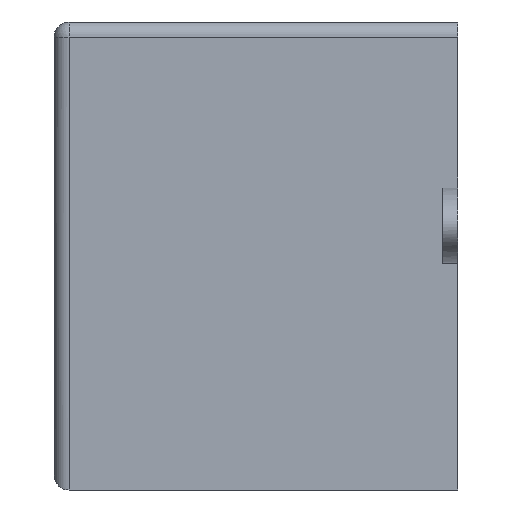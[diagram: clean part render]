
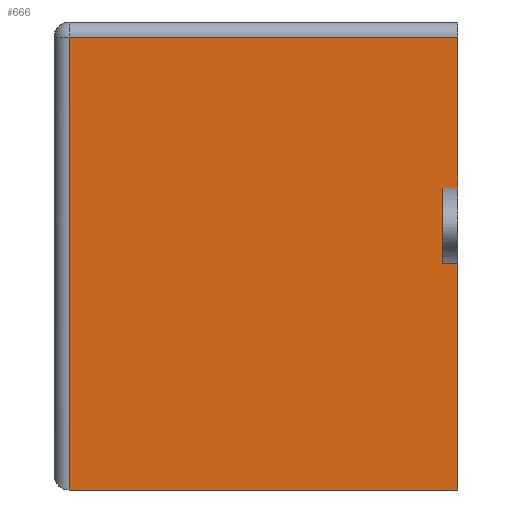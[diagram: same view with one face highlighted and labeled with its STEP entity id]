
A CAD part, left-side view. The second image highlights one B-rep face of the part: STEP entity #666.
In plain terms, the highlighted planar face has unit normal (-1, 0, 0).
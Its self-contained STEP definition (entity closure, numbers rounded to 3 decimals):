
#41=PLANE('',#738);
#73=FACE_OUTER_BOUND('',#111,.T.);
#111=EDGE_LOOP('',(#520,#521,#522,#523,#524,#525,#526,#527));
#164=LINE('',#1022,#232);
#167=LINE('',#1031,#235);
#179=LINE('',#1064,#247);
#180=LINE('',#1066,#248);
#181=LINE('',#1068,#249);
#182=LINE('',#1070,#250);
#183=LINE('',#1072,#251);
#184=LINE('',#1073,#252);
#232=VECTOR('',#821,10.);
#235=VECTOR('',#830,10.);
#247=VECTOR('',#866,10.);
#248=VECTOR('',#867,10.);
#249=VECTOR('',#868,10.);
#250=VECTOR('',#869,10.);
#251=VECTOR('',#870,10.);
#252=VECTOR('',#871,10.);
#320=VERTEX_POINT('',#1017);
#321=VERTEX_POINT('',#1021);
#323=VERTEX_POINT('',#1027);
#333=VERTEX_POINT('',#1063);
#334=VERTEX_POINT('',#1065);
#335=VERTEX_POINT('',#1067);
#336=VERTEX_POINT('',#1069);
#337=VERTEX_POINT('',#1071);
#386=EDGE_CURVE('',#321,#320,#164,.T.);
#391=EDGE_CURVE('',#320,#323,#167,.T.);
#408=EDGE_CURVE('',#333,#321,#179,.T.);
#409=EDGE_CURVE('',#333,#334,#180,.T.);
#410=EDGE_CURVE('',#334,#335,#181,.T.);
#411=EDGE_CURVE('',#335,#336,#182,.T.);
#412=EDGE_CURVE('',#336,#337,#183,.T.);
#413=EDGE_CURVE('',#337,#323,#184,.T.);
#520=ORIENTED_EDGE('',*,*,#391,.F.);
#521=ORIENTED_EDGE('',*,*,#386,.F.);
#522=ORIENTED_EDGE('',*,*,#408,.F.);
#523=ORIENTED_EDGE('',*,*,#409,.T.);
#524=ORIENTED_EDGE('',*,*,#410,.T.);
#525=ORIENTED_EDGE('',*,*,#411,.T.);
#526=ORIENTED_EDGE('',*,*,#412,.T.);
#527=ORIENTED_EDGE('',*,*,#413,.T.);
#666=ADVANCED_FACE('',(#73),#41,.T.);
#738=AXIS2_PLACEMENT_3D('',#1062,#864,#865);
#821=DIRECTION('',(0.,0.,1.));
#830=DIRECTION('',(0.,-1.,0.));
#864=DIRECTION('center_axis',(-1.,0.,0.));
#865=DIRECTION('ref_axis',(0.,1.,0.));
#866=DIRECTION('',(0.,1.,0.));
#867=DIRECTION('',(0.,0.,1.));
#868=DIRECTION('',(0.,1.,0.));
#869=DIRECTION('',(0.,0.,1.));
#870=DIRECTION('',(0.,-1.,0.));
#871=DIRECTION('',(0.,0.,1.));
#1017=CARTESIAN_POINT('',(0.,51.5,0.));
#1021=CARTESIAN_POINT('',(0.,51.5,-60.));
#1022=CARTESIAN_POINT('',(0.,51.5,0.));
#1027=CARTESIAN_POINT('',(0.,0.,0.));
#1031=CARTESIAN_POINT('',(0.,13.375,0.));
#1062=CARTESIAN_POINT('Origin',(0.,0.,0.));
#1063=CARTESIAN_POINT('',(0.,0.,-60.));
#1064=CARTESIAN_POINT('',(0.,0.,-60.));
#1065=CARTESIAN_POINT('',(0.,0.,-30.));
#1066=CARTESIAN_POINT('',(0.,0.,0.));
#1067=CARTESIAN_POINT('',(0.,2.,-30.));
#1068=CARTESIAN_POINT('',(0.,0.,-30.));
#1069=CARTESIAN_POINT('',(0.,2.,-20.));
#1070=CARTESIAN_POINT('',(0.,2.,-12.5));
#1071=CARTESIAN_POINT('',(0.,0.,-20.));
#1072=CARTESIAN_POINT('',(0.,0.,-20.));
#1073=CARTESIAN_POINT('',(0.,0.,0.));
